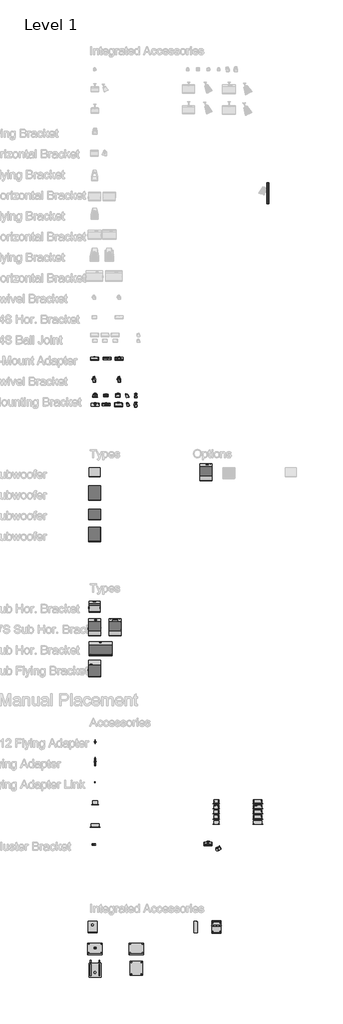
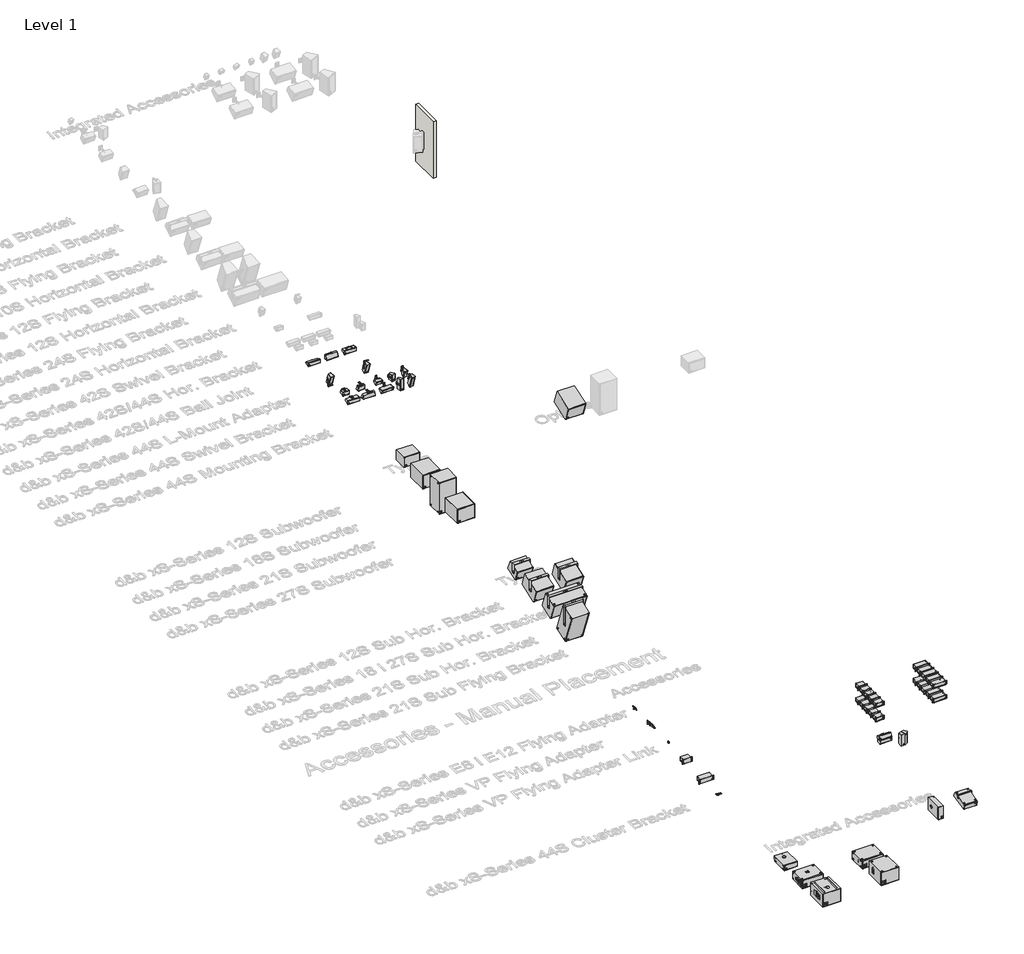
# One storey, part 1 of 55: 109 proxies, 1 wall.
"""IFC4 building model written with IfcOpenShell, lengths in millimetres."""

from ifc_helpers import new_model, si_unit, origin, origin_with_axes, place, context, project, spatial, polyline, outline, extrude, transform, mapped, element, save
from components import communication_devices_97c60789, communication_devices_6301cf38, communication_devices_dab139d3, communication_devices_675c7f0f, communication_devices_358104d0, communication_devices_844caf4c, communication_devices_e7496f29, communication_devices_e3182ff1, communication_devices_1f6d09f7, communication_devices_82e6f1c7, communication_devices_69af7706, communication_devices_fe93b70c, communication_devices_34a5a653, proxy_12s_sub_2a9edee9, proxy_12s_sub_cb7f461c, proxy_12s_sub_horizontal_bracket_de33758e, proxy_18s_sub_8416c1b3, proxy_18s_sub_96205f55, proxy_21s_sub_79dd9c0d, proxy_21s_sub_c40fc60f, proxy_21s_sub_991d3e1e, proxy_21s_sub_horizontal_bracket_4cf1d9cc, proxy_27s_sub_921b6ecd, proxy_27s_sub_db3ca03a, proxy_42s_c8104672, proxy_42s_521dafe3, proxy_42s_42be1cfc, proxy_42s_1332fbba, proxy_42s_98b05bd8, proxy_42s_fb7fbbbd, proxy_42s_a78421c8, proxy_42s_6af7a05f, proxy_42s_3eda13a3, proxy_42s_642b6e83, proxy_42s_229a12bf, proxy_42s_c75082dc, proxy_42s_0d4dba5b, proxy_42s_63104fb8, proxy_42s_c03f11e0, proxy_42s_backbox_1e2a87f7, proxy_42s_backbox_grill_2f24f7a1, proxy_44s_32ae6d55, proxy_44s_7d33e236, proxy_44s_3f6da697, proxy_44s_02d7a7ab, proxy_44s_ea728750, proxy_44s_1c6b800a, proxy_44s_2f7ddd4e, proxy_44s_0980b8fd, proxy_44s_f901832d, proxy_44s_8ae005f7, proxy_44s_0b05587c, proxy_44s_84449b67, proxy_44s_9d6f9ee8, proxy_44s_00a346c1, proxy_44s_be1570ec, proxy_44s_ca5eadcc, proxy_44s_4462d177, proxy_44s_975088ee, proxy_44s_0ea58366, proxy_44s_f6e05639, proxy_44s_21f7933f, proxy_44s_backbox_d0b5ccca, proxy_44s_backbox_grill_4ff85e1d, proxy_44s_swivel_bracket_5362e897, proxy_44s_swivel_bracket_d8dc4f12, b10_sub_546336d0, b10_sub_703a699e, b12_sub_ed2cee65, b12_sub_e7cbb8c9, b12_sub_46f5f9e7, b8_horizontal_bracket_c61ec636, bi10_sub_41919346, bi12_sub_8aa10a98, bi8_sub_5164e3e7, bi8_sub_f5dac4f3, bi8_sub_5dedd92b

model = new_model("IFC4")

# Units and contexts
model_context = context("Model", 3, world=origin())
ifc_project = project(units=[si_unit("LENGTHUNIT", "METRE", prefix="MILLI")], contexts=[model_context])

# Site, building, storey
site = spatial("IfcSite", under=ifc_project)
building = spatial("IfcBuilding", under=site)
storey = spatial("IfcBuildingStorey", under=building, Name="Level 1", Elevation=0.0)

# Proxies
placement = place(None, origin())
communication_devices_shape = communication_devices_97c60789(model_context)
element("IfcBuildingElementProxy", 1, Name="d&b E8 l E12 Flying Adapter : E8 l E12 Flying Adapter", ObjectType="d&b E8 l E12 Flying Adapter : E8 l E12 Flying Adapter", at=placement, inside=storey, context=model_context, shape_type="MappedRepresentation", body=[
    mapped(communication_devices_shape, transform((-11234.6063199, -26914.0150222, 0.0), x_axis=(1.0, 0.0, 0.0), y_axis=(0.0, 1.0, 0.0), z_axis=(0.0, 0.0, 1.0))),
])
communication_devices_2_shape = communication_devices_6301cf38(model_context)
element("IfcBuildingElementProxy", 2, Name="d&b xS-Series 21S Sub Flying Bracket : 21S Sub Flying Bracket", ObjectType="d&b xS-Series 21S Sub Flying Bracket : 21S Sub Flying Bracket", at=placement, inside=storey, context=model_context, shape_type="MappedRepresentation", body=[
    mapped(communication_devices_2_shape, transform((-11261.6434304, -23353.4987699, 1000.0), x_axis=(1.0, 0.0, 0.0), y_axis=(0.0, 1.0, 0.0), z_axis=(0.0, 0.0, 1.0))),
])
communication_devices_3_shape = communication_devices_dab139d3(model_context)
element("IfcBuildingElementProxy", 3, Name="d&b VP Flying Adapter : VP Flying Adapter", ObjectType="d&b VP Flying Adapter : VP Flying Adapter", at=placement, inside=storey, context=model_context, shape_type="MappedRepresentation", body=[
    mapped(communication_devices_3_shape, transform((-11234.6063199, -27853.4987699, 0.0), x_axis=(1.0, 0.0, 0.0), y_axis=(0.0, 1.0, 0.0), z_axis=(0.0, 0.0, 1.0))),
])
communication_devices_4_shape = communication_devices_675c7f0f(model_context)
element("IfcBuildingElementProxy", 4, Name="d&b VP Flying Adapter Link : VP Flying Adapter Link", ObjectType="d&b VP Flying Adapter Link : VP Flying Adapter Link", at=placement, inside=storey, context=model_context, shape_type="MappedRepresentation", body=[
    mapped(communication_devices_4_shape, transform((-11234.6063199, -28853.4987699, 0.0), x_axis=(1.0, 0.0, 0.0), y_axis=(0.0, 1.0, 0.0), z_axis=(0.0, 0.0, 1.0))),
])
communication_devices_5_shape = communication_devices_358104d0(model_context)
element("IfcBuildingElementProxy", 5, Name="d&b xS-Series 18 l 27S Sub Horizontal Bracket : 18S l 27S Sub Horizontal Bracket", ObjectType="d&b xS-Series 18 l 27S Sub Horizontal Bracket : 18S l 27S Sub Horizontal Bracket", at=placement, inside=storey, context=model_context, shape_type="MappedRepresentation", body=[
    mapped(communication_devices_5_shape, transform((-11261.6434304, -21353.4987699, 1000.0), x_axis=(1.0, 0.0, 0.0), y_axis=(0.0, 1.0, 0.0), z_axis=(0.0, 0.0, 1.0))),
])
communication_devices_6_shape = communication_devices_844caf4c(model_context)
element("IfcBuildingElementProxy", 6, Name="d&b xS-Series 18 l 27S Sub Horizontal Bracket : 18S l 27S Sub Horizontal Bracket", ObjectType="d&b xS-Series 18 l 27S Sub Horizontal Bracket : 18S l 27S Sub Horizontal Bracket", at=placement, inside=storey, context=model_context, shape_type="MappedRepresentation", body=[
    mapped(communication_devices_6_shape, transform((-10261.6434304, -21353.4987699, 1000.0), x_axis=(1.0, 0.0, 0.0), y_axis=(0.0, 1.0, 0.0), z_axis=(0.0, 0.0, 1.0))),
])
communication_devices_7_shape = communication_devices_e7496f29(model_context)
element("IfcBuildingElementProxy", 7, Name="d&b xS-Series 44S Cluster Bracket : 44S Cluster Bracket", ObjectType="d&b xS-Series 44S Cluster Bracket : 44S Cluster Bracket", at=placement, inside=storey, context=model_context, shape_type="MappedRepresentation", body=[
    mapped(communication_devices_7_shape, transform((-11234.6063199, -31853.4987699, 0.0), x_axis=(1.0, 0.0, 0.0), y_axis=(0.0, 1.0, 0.0), z_axis=(0.0, 0.0, 1.0))),
])
element("IfcBuildingElementProxy", 8, Name="d&b xS-Series 44S Cluster Bracket : 44S Cluster Bracket", ObjectType="d&b xS-Series 44S Cluster Bracket : 44S Cluster Bracket", at=placement, inside=storey, context=model_context, shape_type="MappedRepresentation", body=[
    mapped(communication_devices_7_shape, transform((-5754.4666248, -31784.3958596, -24.6152908), x_axis=(0.0, -0.17364817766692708, -0.9848077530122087), y_axis=(-1.0, 0.0, 0.0), z_axis=(0.0, 0.9848077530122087, -0.17364817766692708))),
])
element("IfcBuildingElementProxy", 9, Name="d&b xS-Series 44S Cluster Bracket : 44S Cluster Bracket", ObjectType="d&b xS-Series 44S Cluster Bracket : 44S Cluster Bracket", at=placement, inside=storey, context=model_context, shape_type="MappedRepresentation", body=[
    mapped(communication_devices_7_shape, transform((-5232.0771322, -31982.1792369, 0.0), x_axis=(0.9396926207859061, 0.34202014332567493, 0.0), y_axis=(0.0, 0.0, -1.0), z_axis=(-0.34202014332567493, 0.9396926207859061, 0.0))),
])
communication_devices_8_shape = communication_devices_e3182ff1(model_context)
element("IfcBuildingElementProxy", 10, Name="d&b xS-Series 44S L-Mount Adapter : 44S L-Mount Adapter", ObjectType="d&b xS-Series 44S L-Mount Adapter : 44S L-Mount Adapter", at=placement, inside=storey, context=model_context, shape_type="MappedRepresentation", body=[
    mapped(communication_devices_8_shape, transform((-11261.6434304, -8311.3404464, 936.0), x_axis=(-1.0, 0.0, 0.0), y_axis=(0.0, 1.0, 0.0), z_axis=(0.0, 0.0, -1.0))),
])
element("IfcBuildingElementProxy", 11, Name="d&b xS-Series 44S L-Mount Adapter : 44S L-Mount Adapter", ObjectType="d&b xS-Series 44S L-Mount Adapter : 44S L-Mount Adapter", at=placement, inside=storey, context=model_context, shape_type="MappedRepresentation", body=[
    mapped(communication_devices_8_shape, transform((-10061.6434304, -8311.3404464, 1064.0), x_axis=(1.0, 0.0, 0.0), y_axis=(0.0, 1.0, 0.0), z_axis=(0.0, 0.0, 1.0))),
])
element("IfcBuildingElementProxy", 12, Name="d&b xS-Series 44S L-Mount Adapter : 44S L-Mount Adapter", ObjectType="d&b xS-Series 44S L-Mount Adapter : 44S L-Mount Adapter", at=placement, inside=storey, context=model_context, shape_type="MappedRepresentation", body=[
    mapped(communication_devices_8_shape, transform((-10641.6434304, -8289.4987699, 1042.1583235), x_axis=(-1.0000000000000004, 0.0, 0.0), y_axis=(0.0, 0.0, 1.0), z_axis=(0.0, 1.0000000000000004, 0.0))),
])
communication_devices_9_shape = communication_devices_1f6d09f7(model_context)
element("IfcBuildingElementProxy", 13, Name="d&b xS-Series 42S l 44S Mounting Bracket : 42S l 44S Mounting Bracket", ObjectType="d&b xS-Series 42S l 44S Mounting Bracket : 42S l 44S Mounting Bracket", at=placement, inside=storey, context=model_context, shape_type="MappedRepresentation", body=[
    mapped(communication_devices_9_shape, transform((-10121.6434304, -10070.7317343, 1000.8173778), x_axis=(-1.0, 0.0, 0.0), y_axis=(0.0, -0.17364817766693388, 0.9848077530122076), z_axis=(0.0, 0.9848077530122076, 0.17364817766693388))),
])
element("IfcBuildingElementProxy", 14, Name="d&b xS-Series 42S l 44S Mounting Bracket : 42S l 44S Mounting Bracket", ObjectType="d&b xS-Series 42S l 44S Mounting Bracket : 42S l 44S Mounting Bracket", at=placement, inside=storey, context=model_context, shape_type="MappedRepresentation", body=[
    mapped(communication_devices_9_shape, transform((-9258.0410687, -10086.652246, 1040.778873), x_axis=(-0.9995410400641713, -0.002909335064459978, 0.03015368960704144), y_axis=(0.030206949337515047, -0.1710006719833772, 0.9848077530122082), z_axis=(0.002291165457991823, 0.985266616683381, 0.171010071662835))),
])
element("IfcBuildingElementProxy", 15, Name="d&b xS-Series 42S l 44S Mounting Bracket : 42S l 44S Mounting Bracket", ObjectType="d&b xS-Series 42S l 44S Mounting Bracket : 42S l 44S Mounting Bracket", at=placement, inside=storey, context=model_context, shape_type="MappedRepresentation", body=[
    mapped(communication_devices_9_shape, transform((-10101.6434304, -10509.2369172, 1001.3605779), x_axis=(-1.0, 0.0, 0.0), y_axis=(0.0, -0.17364817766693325, 0.9848077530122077), z_axis=(0.0, 0.9848077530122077, 0.17364817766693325))),
])
communication_devices_10_shape = communication_devices_82e6f1c7(model_context)
element("IfcBuildingElementProxy", 16, Name="d&b xS-Series 42S l 44S Mounting Bracket : 42S l 44S Mounting Bracket", ObjectType="d&b xS-Series 42S l 44S Mounting Bracket : 42S l 44S Mounting Bracket", at=placement, inside=storey, context=model_context, shape_type="MappedRepresentation", body=[
    mapped(communication_devices_10_shape, transform((-11231.6434304, -10513.2169842, 1023.9326593), x_axis=(1.0, 0.0, 0.0), y_axis=(0.0, 0.17364817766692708, -0.9848077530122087), z_axis=(0.0, 0.9848077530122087, 0.17364817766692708))),
])
element("IfcBuildingElementProxy", 17, Name="d&b xS-Series 42S l 44S Mounting Bracket : 42S l 44S Mounting Bracket", ObjectType="d&b xS-Series 42S l 44S Mounting Bracket : 42S l 44S Mounting Bracket", at=placement, inside=storey, context=model_context, shape_type="MappedRepresentation", body=[
    mapped(communication_devices_10_shape, transform((-11231.6434304, -10074.8405638, 1024.1197081), x_axis=(1.0, 0.0, 0.0), y_axis=(0.0, 0.17364817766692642, -0.9848077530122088), z_axis=(0.0, 0.9848077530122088, 0.17364817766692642))),
])
communication_devices_11_shape = communication_devices_69af7706(model_context)
element("IfcBuildingElementProxy", 18, Name="d&b xS-Series 42S l 44S Mounting Bracket : 42S l 44S Mounting Bracket", ObjectType="d&b xS-Series 42S l 44S Mounting Bracket : 42S l 44S Mounting Bracket", at=placement, inside=storey, context=model_context, shape_type="MappedRepresentation", body=[
    mapped(communication_devices_11_shape, transform((-10707.6247756, -10606.3729203, 1069.2232767), x_axis=(1.0, 0.0, 0.0), y_axis=(0.0, 0.984807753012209, 0.17364817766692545), z_axis=(0.0, -0.17364817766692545, 0.984807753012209))),
])
element("IfcBuildingElementProxy", 19, Name="d&b xS-Series 42S l 44S Mounting Bracket : 42S l 44S Mounting Bracket", ObjectType="d&b xS-Series 42S l 44S Mounting Bracket : 42S l 44S Mounting Bracket", at=placement, inside=storey, context=model_context, shape_type="MappedRepresentation", body=[
    mapped(communication_devices_11_shape, transform((-10707.6247756, -10167.618478, 1068.6582061), x_axis=(1.0, 0.0, 0.0), y_axis=(0.0, 0.9848077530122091, 0.17364817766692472), z_axis=(0.0, -0.17364817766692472, 0.9848077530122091))),
])
communication_devices_12_shape = communication_devices_fe93b70c(model_context)
element("IfcBuildingElementProxy", 20, Name="d&b xS-Series 42S l 44S Mounting Bracket : 42S l 44S Mounting Bracket", ObjectType="d&b xS-Series 42S l 44S Mounting Bracket : 42S l 44S Mounting Bracket", at=placement, inside=storey, context=model_context, shape_type="MappedRepresentation", body=[
    mapped(communication_devices_12_shape, transform((-9659.964498, -10512.7704711, 1000.5286813), x_axis=(0.0, 0.0, -1.0), y_axis=(-0.9395860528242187, -0.3423127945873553, 0.0), z_axis=(-0.3423127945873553, 0.9395860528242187, 0.0))),
])
element("IfcBuildingElementProxy", 21, Name="d&b xS-Series 42S l 44S Mounting Bracket : 42S l 44S Mounting Bracket", ObjectType="d&b xS-Series 42S l 44S Mounting Bracket : 42S l 44S Mounting Bracket", at=placement, inside=storey, context=model_context, shape_type="MappedRepresentation", body=[
    mapped(communication_devices_10_shape, transform((-9701.9086544, -10090.3500082, 1007.6806883), x_axis=(0.0, 0.0, 1.0), y_axis=(0.9395860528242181, 0.3423127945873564, 0.0), z_axis=(-0.3423127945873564, 0.9395860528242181, 0.0))),
])
communication_devices_13_shape = communication_devices_34a5a653(model_context)
element("IfcBuildingElementProxy", 22, Name="d&b xS-Series 42S l 44S Mounting Bracket : 42S l 44S Mounting Bracket", ObjectType="d&b xS-Series 42S l 44S Mounting Bracket : 42S l 44S Mounting Bracket", at=placement, inside=storey, context=model_context, shape_type="MappedRepresentation", body=[
    mapped(communication_devices_13_shape, transform((-9263.0218781, -10506.8081611, 1017.9387159), x_axis=(-0.9989706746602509, -0.006138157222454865, 0.04494345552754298), y_axis=(0.04502283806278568, -0.25487299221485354, 0.9659258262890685), z_axis=(0.005525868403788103, 0.9669550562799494, 0.25488700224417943))),
])
element("IfcBuildingElementProxy", 23, Name="d&b xS-Series 42S l 44S Mounting Bracket : 42S l 44S Mounting Bracket", ObjectType="d&b xS-Series 42S l 44S Mounting Bracket : 42S l 44S Mounting Bracket", at=placement, inside=storey, context=model_context, shape_type="MappedRepresentation", body=[
    mapped(communication_devices_10_shape, transform((-5234.3426962, -31979.8113014, 0.0), x_axis=(0.0, 0.0, -1.0), y_axis=(-0.9396926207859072, -0.3420201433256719, 0.0), z_axis=(-0.3420201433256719, 0.9396926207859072, 0.0))),
])
element("IfcBuildingElementProxy", 24, Name="d&b xS-Series 42S l 44S Mounting Bracket : 42S l 44S Mounting Bracket", ObjectType="d&b xS-Series 42S l 44S Mounting Bracket : 42S l 44S Mounting Bracket", at=placement, inside=storey, context=model_context, shape_type="MappedRepresentation", body=[
    mapped(communication_devices_10_shape, transform((-5753.849774, -31753.2096812, 79.220637), x_axis=(1.0, 0.0, 0.0), y_axis=(0.0, -0.3420201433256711, -0.9396926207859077), z_axis=(0.0, 0.9396926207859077, -0.3420201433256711))),
])
proxy_12s_sub_shape = proxy_12s_sub_2a9edee9(model_context)
element("IfcBuildingElementProxy", 25, Name="d&b xS-Series 12S Subwoofer : 12S Sub", ObjectType="d&b xS-Series 12S Subwoofer : 12S Sub", at=placement, inside=storey, context=model_context, shape_type="MappedRepresentation", body=[
    mapped(proxy_12s_sub_shape, transform((-11261.6434304, -13853.4987699, 1000.0), x_axis=(1.0, 0.0, 0.0), y_axis=(0.0, 1.0, 0.0), z_axis=(0.0, 0.0, 1.0))),
])
proxy_12s_sub_2_shape = proxy_12s_sub_cb7f461c(model_context)
element("IfcBuildingElementProxy", 26, Name="d&b xS-Series 12S Subwoofer : 12S Sub", ObjectType="d&b xS-Series 12S Subwoofer : 12S Sub", at=placement, inside=storey, context=model_context, shape_type="MappedRepresentation", body=[
    mapped(proxy_12s_sub_2_shape, transform((-11261.6434304, -20353.4987699, 1000.0), x_axis=(1.0, 0.0, 0.0), y_axis=(0.0, 1.0, 0.0), z_axis=(0.0, 0.0, 1.0))),
])
proxy_12s_sub_horizontal_bracket_shape = proxy_12s_sub_horizontal_bracket_de33758e(model_context)
element("IfcBuildingElementProxy", 27, Name="d&b xS-Series 12S Sub Horizontal Bracket : 12S Sub Horizontal Bracket", ObjectType="d&b xS-Series 12S Sub Horizontal Bracket : 12S Sub Horizontal Bracket", at=placement, inside=storey, context=model_context, shape_type="MappedRepresentation", body=[
    mapped(proxy_12s_sub_horizontal_bracket_shape, transform((-11261.6434304, -20353.5070077, 1000.0), x_axis=(1.0, 0.0, 0.0), y_axis=(0.0, 1.0, 0.0), z_axis=(0.0, 0.0, 1.0))),
])
proxy_18s_sub_shape = proxy_18s_sub_8416c1b3(model_context)
element("IfcBuildingElementProxy", 28, Name="d&b xS-Series 18S Subwoofer : 18S Sub", ObjectType="d&b xS-Series 18S Subwoofer : 18S Sub", at=placement, inside=storey, context=model_context, shape_type="MappedRepresentation", body=[
    mapped(proxy_18s_sub_shape, transform((-11261.6434304, -14853.4987699, 1000.0), x_axis=(1.0, 0.0, 0.0), y_axis=(0.0, 1.0, 0.0), z_axis=(0.0, 0.0, 1.0))),
])
proxy_18s_sub_2_shape = proxy_18s_sub_96205f55(model_context)
element("IfcBuildingElementProxy", 29, Name="d&b xS-Series 18S Subwoofer : 18S Sub", ObjectType="d&b xS-Series 18S Subwoofer : 18S Sub", at=placement, inside=storey, context=model_context, shape_type="MappedRepresentation", body=[
    mapped(proxy_18s_sub_2_shape, transform((-11261.6434304, -21353.4987699, 1000.0), x_axis=(1.0, 0.0, 0.0), y_axis=(0.0, 1.0, 0.0), z_axis=(0.0, 0.0, 1.0))),
])
element("IfcBuildingElementProxy", 30, Name="d&b xS-Series 18S Subwoofer : 18S Sub", ObjectType="d&b xS-Series 18S Subwoofer : 18S Sub", at=placement, inside=storey, context=model_context, shape_type="MappedRepresentation", body=[
    mapped(proxy_18s_sub_2_shape, transform((-5861.6434304, -13853.4987699, 1000.0), x_axis=(1.0, 0.0, 0.0), y_axis=(0.0, 1.0, 0.0), z_axis=(0.0, 0.0, 1.0))),
])
proxy_21s_sub_shape = proxy_21s_sub_79dd9c0d(model_context)
element("IfcBuildingElementProxy", 31, Name="d&b xS-Series 21S Subwoofer : 21S Sub", ObjectType="d&b xS-Series 21S Subwoofer : 21S Sub", at=placement, inside=storey, context=model_context, shape_type="MappedRepresentation", body=[
    mapped(proxy_21s_sub_shape, transform((-11261.6434304, -15853.4987699, 1000.0), x_axis=(1.0, 0.0, 0.0), y_axis=(0.0, 1.0, 0.0), z_axis=(0.0, 0.0, 1.0))),
])
proxy_21s_sub_2_shape = proxy_21s_sub_c40fc60f(model_context)
element("IfcBuildingElementProxy", 32, Name="d&b xS-Series 21S Subwoofer : 21S Sub", ObjectType="d&b xS-Series 21S Subwoofer : 21S Sub", at=placement, inside=storey, context=model_context, shape_type="MappedRepresentation", body=[
    mapped(proxy_21s_sub_2_shape, transform((-10968.1434304, -22353.4987699, 1000.0), x_axis=(1.0, 0.0, 0.0), y_axis=(0.0, 1.0, 0.0), z_axis=(0.0, 0.0, 1.0))),
])
proxy_21s_sub_3_shape = proxy_21s_sub_991d3e1e(model_context)
element("IfcBuildingElementProxy", 33, Name="d&b xS-Series 21S Subwoofer : 21S Sub", ObjectType="d&b xS-Series 21S Subwoofer : 21S Sub", at=placement, inside=storey, context=model_context, shape_type="MappedRepresentation", body=[
    mapped(proxy_21s_sub_3_shape, transform((-11261.6434304, -23353.4987699, 1000.0), x_axis=(1.0, 0.0, 0.0), y_axis=(0.0, 1.0, 0.0), z_axis=(0.0, 0.0, 1.0))),
])
proxy_21s_sub_horizontal_bracket_shape = proxy_21s_sub_horizontal_bracket_4cf1d9cc(model_context)
element("IfcBuildingElementProxy", 34, Name="d&b xS-Series 21S Sub Horizontal Bracket : 21S Sub Horizontal Bracket", ObjectType="d&b xS-Series 21S Sub Horizontal Bracket : 21S Sub Horizontal Bracket", at=placement, inside=storey, context=model_context, shape_type="MappedRepresentation", body=[
    mapped(proxy_21s_sub_horizontal_bracket_shape, transform((-10968.1434304, -22353.4987699, 1000.0), x_axis=(1.0, 0.0, 0.0), y_axis=(0.0, 1.0, 0.0), z_axis=(0.0, 0.0, 1.0))),
])
proxy_27s_sub_shape = proxy_27s_sub_921b6ecd(model_context)
element("IfcBuildingElementProxy", 35, Name="d&b xS-Series 27S Subwoofer : 27S Sub", ObjectType="d&b xS-Series 27S Subwoofer : 27S Sub", at=placement, inside=storey, context=model_context, shape_type="MappedRepresentation", body=[
    mapped(proxy_27s_sub_shape, transform((-11261.6434304, -16853.4987699, 1000.0), x_axis=(1.0, 0.0, 0.0), y_axis=(0.0, 1.0, 0.0), z_axis=(0.0, 0.0, 1.0))),
])
proxy_27s_sub_2_shape = proxy_27s_sub_db3ca03a(model_context)
element("IfcBuildingElementProxy", 36, Name="d&b xS-Series 27S Subwoofer : 27S Sub", ObjectType="d&b xS-Series 27S Subwoofer : 27S Sub", at=placement, inside=storey, context=model_context, shape_type="MappedRepresentation", body=[
    mapped(proxy_27s_sub_2_shape, transform((-10261.6434304, -21353.4987699, 1000.0), x_axis=(1.0, 0.0, 0.0), y_axis=(0.0, 1.0, 0.0), z_axis=(0.0, 0.0, 1.0))),
])
proxy_42s_shape = proxy_42s_c8104672(model_context)
element("IfcBuildingElementProxy", 37, Name="d&b xS-Series 42S Point Source : 42S", ObjectType="d&b xS-Series 42S Point Source : 42S", at=placement, inside=storey, context=model_context, shape_type="MappedRepresentation", body=[
    mapped(proxy_42s_shape, transform((-5354.4666248, -30041.9343197, -19.3614022), x_axis=(1.0, 0.0, 0.0), y_axis=(0.0, 1.0, 0.0), z_axis=(0.0, 0.0, 1.0))),
])
proxy_42s_2_shape = proxy_42s_521dafe3(model_context)
element("IfcBuildingElementProxy", 38, Name="d&b xS-Series 42S Point Source : 42S", ObjectType="d&b xS-Series 42S Point Source : 42S", at=placement, inside=storey, context=model_context, shape_type="MappedRepresentation", body=[
    mapped(proxy_42s_2_shape, transform((-5354.4666248, -30295.3867728, -12.5644217), x_axis=(1.0, 0.0, 0.0), y_axis=(0.0, 1.0, 0.0), z_axis=(0.0, 0.0, 1.0))),
])
proxy_42s_3_shape = proxy_42s_42be1cfc(model_context)
element("IfcBuildingElementProxy", 39, Name="d&b xS-Series 42S Point Source : 42S", ObjectType="d&b xS-Series 42S Point Source : 42S", at=placement, inside=storey, context=model_context, shape_type="MappedRepresentation", body=[
    mapped(proxy_42s_3_shape, transform((-5354.4666248, -30549.4184841, -6.0942069), x_axis=(1.0, 0.0, 0.0), y_axis=(0.0, 1.0, 0.0), z_axis=(0.0, 0.0, 1.0))),
])
proxy_42s_4_shape = proxy_42s_1332fbba(model_context)
element("IfcBuildingElementProxy", 40, Name="d&b xS-Series 42S Point Source : 42S", ObjectType="d&b xS-Series 42S Point Source : 42S", at=placement, inside=storey, context=model_context, shape_type="MappedRepresentation", body=[
    mapped(proxy_42s_4_shape, transform((-5354.4666248, -29789.0874001, -26.4334192), x_axis=(1.0, 0.0, 0.0), y_axis=(0.0, 1.0, 0.0), z_axis=(0.0, 0.0, 1.0))),
])
proxy_42s_5_shape = proxy_42s_98b05bd8(model_context)
element("IfcBuildingElementProxy", 41, Name="d&b xS-Series 42S Point Source : 42S", ObjectType="d&b xS-Series 42S Point Source : 42S", at=placement, inside=storey, context=model_context, shape_type="MappedRepresentation", body=[
    mapped(proxy_42s_5_shape, transform((-5354.4666248, -30803.9987699, 0.0), x_axis=(1.0, 0.0, 0.0), y_axis=(0.0, 1.0, 0.0), z_axis=(0.0, 0.0, 1.0))),
])
proxy_42s_6_shape = proxy_42s_fb7fbbbd(model_context)
element("IfcBuildingElementProxy", 42, Name="d&b xS-Series 42S Point Source : 42S", ObjectType="d&b xS-Series 42S Point Source : 42S", at=placement, inside=storey, context=model_context, shape_type="MappedRepresentation", body=[
    mapped(proxy_42s_6_shape, transform((-10121.6434304, -10143.4987699, 1000.0), x_axis=(1.0, 0.0, 0.0), y_axis=(0.0, 1.0, 0.0), z_axis=(0.0, 0.0, 1.0))),
])
proxy_42s_7_shape = proxy_42s_a78421c8(model_context)
element("IfcBuildingElementProxy", 43, Name="d&b xS-Series 42S Point Source : 42S", ObjectType="d&b xS-Series 42S Point Source : 42S", at=placement, inside=storey, context=model_context, shape_type="MappedRepresentation", body=[
    mapped(proxy_42s_7_shape, transform((-9266.2132539, -10153.7656843, 1007.6806883), x_axis=(0.9847536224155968, 0.17395488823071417, 0.0), y_axis=(-0.17395488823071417, 0.9847536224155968, 0.0), z_axis=(0.0, 0.0, 1.0))),
])
proxy_42s_8_shape = proxy_42s_6af7a05f(model_context)
element("IfcBuildingElementProxy", 44, Name="d&b xS-Series 42S Point Source : 42S", ObjectType="d&b xS-Series 42S Point Source : 42S", at=placement, inside=storey, context=model_context, shape_type="MappedRepresentation", body=[
    mapped(proxy_42s_8_shape, transform((-9666.2132539, -10153.7656843, 1007.6806883), x_axis=(0.9847536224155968, 0.17395488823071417, 0.0), y_axis=(-0.17395488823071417, 0.9847536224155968, 0.0), z_axis=(0.0, 0.0, 1.0))),
])
proxy_42s_9_shape = proxy_42s_3eda13a3(model_context)
element("IfcBuildingElementProxy", 45, Name="d&b xS-Series 42S Point Source : 42S", ObjectType="d&b xS-Series 42S Point Source : 42S", at=placement, inside=storey, context=model_context, shape_type="MappedRepresentation", body=[
    mapped(proxy_42s_9_shape, transform((-10707.6247756, -10143.4987699, 1000.0), x_axis=(1.0, 0.0, 0.0), y_axis=(0.0, 1.0, 0.0), z_axis=(0.0, 0.0, 1.0))),
])
proxy_42s_10_shape = proxy_42s_642b6e83(model_context)
element("IfcBuildingElementProxy", 46, Name="d&b xS-Series 42S Point Source : 42S", ObjectType="d&b xS-Series 42S Point Source : 42S", at=placement, inside=storey, context=model_context, shape_type="MappedRepresentation", body=[
    mapped(proxy_42s_10_shape, transform((-11231.6434304, -10143.4987699, 1000.0), x_axis=(1.0, 0.0, 0.0), y_axis=(0.0, 1.0, 0.0), z_axis=(0.0, 0.0, 1.0))),
])
proxy_42s_11_shape = proxy_42s_229a12bf(model_context)
element("IfcBuildingElementProxy", 47, Name="d&b xS-Series 42S Point Source : 42S", ObjectType="d&b xS-Series 42S Point Source : 42S", at=placement, inside=storey, context=model_context, shape_type="MappedRepresentation", body=[
    mapped(proxy_42s_11_shape, transform((-5354.4666248, -30041.9343197, 519.3614022), x_axis=(1.0, 0.0, 0.0), y_axis=(0.0, 1.0, 0.0), z_axis=(0.0, 0.0, 1.0))),
])
proxy_42s_12_shape = proxy_42s_c75082dc(model_context)
element("IfcBuildingElementProxy", 48, Name="d&b xS-Series 42S Point Source : 42S", ObjectType="d&b xS-Series 42S Point Source : 42S", at=placement, inside=storey, context=model_context, shape_type="MappedRepresentation", body=[
    mapped(proxy_42s_12_shape, transform((-5354.4666248, -29789.0874001, 526.4334192), x_axis=(1.0, 0.0, 0.0), y_axis=(0.0, 1.0, 0.0), z_axis=(0.0, 0.0, 1.0))),
])
proxy_42s_13_shape = proxy_42s_0d4dba5b(model_context)
element("IfcBuildingElementProxy", 49, Name="d&b xS-Series 42S Point Source : 42S", ObjectType="d&b xS-Series 42S Point Source : 42S", at=placement, inside=storey, context=model_context, shape_type="MappedRepresentation", body=[
    mapped(proxy_42s_13_shape, transform((-5354.4666248, -30549.4184841, 506.0942069), x_axis=(1.0, 0.0, 0.0), y_axis=(0.0, 1.0, 0.0), z_axis=(0.0, 0.0, 1.0))),
])
proxy_42s_14_shape = proxy_42s_63104fb8(model_context)
element("IfcBuildingElementProxy", 50, Name="d&b xS-Series 42S Point Source : 42S", ObjectType="d&b xS-Series 42S Point Source : 42S", at=placement, inside=storey, context=model_context, shape_type="MappedRepresentation", body=[
    mapped(proxy_42s_14_shape, transform((-5354.4666248, -30295.3867728, 512.5644217), x_axis=(1.0, 0.0, 0.0), y_axis=(0.0, 1.0, 0.0), z_axis=(0.0, 0.0, 1.0))),
])
proxy_42s_15_shape = proxy_42s_c03f11e0(model_context)
element("IfcBuildingElementProxy", 51, Name="d&b xS-Series 42S Point Source : 42S", ObjectType="d&b xS-Series 42S Point Source : 42S", at=placement, inside=storey, context=model_context, shape_type="MappedRepresentation", body=[
    mapped(proxy_42s_15_shape, transform((-5354.4666248, -30803.9987699, 500.0), x_axis=(1.0, 0.0, 0.0), y_axis=(0.0, 1.0, 0.0), z_axis=(0.0, 0.0, 1.0))),
])
proxy_42s_backbox_shape = proxy_42s_backbox_1e2a87f7(model_context)
element("IfcBuildingElementProxy", 52, Name="d&b xS-Series 42S Backbox : 42S Backbox", ObjectType="d&b xS-Series 42S Backbox : 42S Backbox", at=placement, inside=storey, context=model_context, shape_type="MappedRepresentation", body=[
    mapped(proxy_42s_backbox_shape, transform((-11234.6063199, -29840.9987699, 0.0), x_axis=(1.0, 0.0, 0.0), y_axis=(0.0, 1.0, 0.0), z_axis=(0.0, 0.0, 1.0))),
])
element("IfcBuildingElementProxy", 53, Name="d&b xS-Series 42S Backbox : 42S Backbox", ObjectType="d&b xS-Series 42S Backbox : 42S Backbox", at=placement, inside=storey, context=model_context, shape_type="MappedRepresentation", body=[
    mapped(proxy_42s_backbox_shape, transform((-5354.4666248, -30040.9987699, 0.0), x_axis=(1.0, 0.0, 0.0), y_axis=(0.0, 1.0, 0.0), z_axis=(0.0, 0.0, 1.0))),
])
element("IfcBuildingElementProxy", 54, Name="d&b xS-Series 42S Backbox : 42S Backbox", ObjectType="d&b xS-Series 42S Backbox : 42S Backbox", at=placement, inside=storey, context=model_context, shape_type="MappedRepresentation", body=[
    mapped(proxy_42s_backbox_shape, transform((-5354.4666248, -30290.9987699, 0.0), x_axis=(1.0, 0.0, 0.0), y_axis=(0.0, 1.0, 0.0), z_axis=(0.0, 0.0, 1.0))),
])
element("IfcBuildingElementProxy", 55, Name="d&b xS-Series 42S Backbox : 42S Backbox", ObjectType="d&b xS-Series 42S Backbox : 42S Backbox", at=placement, inside=storey, context=model_context, shape_type="MappedRepresentation", body=[
    mapped(proxy_42s_backbox_shape, transform((-5354.4666248, -30540.9987699, 0.0), x_axis=(1.0, 0.0, 0.0), y_axis=(0.0, 1.0, 0.0), z_axis=(0.0, 0.0, 1.0))),
])
element("IfcBuildingElementProxy", 56, Name="d&b xS-Series 42S Backbox : 42S Backbox", ObjectType="d&b xS-Series 42S Backbox : 42S Backbox", at=placement, inside=storey, context=model_context, shape_type="MappedRepresentation", body=[
    mapped(proxy_42s_backbox_shape, transform((-5354.4666248, -29790.9987699, 0.0), x_axis=(1.0, 0.0, 0.0), y_axis=(0.0, 1.0, 0.0), z_axis=(0.0, 0.0, 1.0))),
])
element("IfcBuildingElementProxy", 57, Name="d&b xS-Series 42S Backbox : 42S Backbox", ObjectType="d&b xS-Series 42S Backbox : 42S Backbox", at=placement, inside=storey, context=model_context, shape_type="MappedRepresentation", body=[
    mapped(proxy_42s_backbox_shape, transform((-5354.4666248, -30040.9987699, 500.0), x_axis=(1.0, 0.0, 0.0), y_axis=(0.0, 1.0, 0.0), z_axis=(0.0, 0.0, 1.0))),
])
element("IfcBuildingElementProxy", 58, Name="d&b xS-Series 42S Backbox : 42S Backbox", ObjectType="d&b xS-Series 42S Backbox : 42S Backbox", at=placement, inside=storey, context=model_context, shape_type="MappedRepresentation", body=[
    mapped(proxy_42s_backbox_shape, transform((-5354.4666248, -30290.9987699, 500.0), x_axis=(1.0, 0.0, 0.0), y_axis=(0.0, 1.0, 0.0), z_axis=(0.0, 0.0, 1.0))),
])
element("IfcBuildingElementProxy", 59, Name="d&b xS-Series 42S Backbox : 42S Backbox", ObjectType="d&b xS-Series 42S Backbox : 42S Backbox", at=placement, inside=storey, context=model_context, shape_type="MappedRepresentation", body=[
    mapped(proxy_42s_backbox_shape, transform((-5354.4666248, -30540.9987699, 500.0), x_axis=(1.0, 0.0, 0.0), y_axis=(0.0, 1.0, 0.0), z_axis=(0.0, 0.0, 1.0))),
])
element("IfcBuildingElementProxy", 60, Name="d&b xS-Series 42S Backbox : 42S Backbox", ObjectType="d&b xS-Series 42S Backbox : 42S Backbox", at=placement, inside=storey, context=model_context, shape_type="MappedRepresentation", body=[
    mapped(proxy_42s_backbox_shape, transform((-5354.4666248, -29790.9987699, 500.0), x_axis=(1.0, 0.0, 0.0), y_axis=(0.0, 1.0, 0.0), z_axis=(0.0, 0.0, 1.0))),
])
element("IfcBuildingElementProxy", 61, Name="d&b xS-Series 42S Backbox : 42S Backbox", ObjectType="d&b xS-Series 42S Backbox : 42S Backbox", at=placement, inside=storey, context=model_context, shape_type="MappedRepresentation", body=[
    mapped(proxy_42s_backbox_shape, transform((-5354.4666248, -30790.9987699, 500.0), x_axis=(1.0, 0.0, 0.0), y_axis=(0.0, 1.0, 0.0), z_axis=(0.0, 0.0, 1.0))),
])
element("IfcBuildingElementProxy", 62, Name="d&b xS-Series 42S Backbox : 42S Backbox", ObjectType="d&b xS-Series 42S Backbox : 42S Backbox", at=placement, inside=storey, context=model_context, shape_type="MappedRepresentation", body=[
    mapped(proxy_42s_backbox_shape, transform((-5354.4666248, -30790.9987699, 0.0), x_axis=(1.0, 0.0, 0.0), y_axis=(0.0, 1.0, 0.0), z_axis=(0.0, 0.0, 1.0))),
])
proxy_42s_backbox_grill_shape = proxy_42s_backbox_grill_2f24f7a1(model_context)
element("IfcBuildingElementProxy", 63, Name="d&b xS-Series 42S Backbox Grill : 42S Backbox Grill", ObjectType="d&b xS-Series 42S Backbox Grill : 42S Backbox Grill", at=placement, inside=storey, context=model_context, shape_type="MappedRepresentation", body=[
    mapped(proxy_42s_backbox_grill_shape, transform((-11234.6063199, -29840.9987699, 0.0), x_axis=(1.0, 0.0, 0.0), y_axis=(0.0, 1.0, 0.0), z_axis=(0.0, 0.0, 1.0))),
])
proxy_44s_shape = proxy_44s_32ae6d55(model_context)
element("IfcBuildingElementProxy", 64, Name="d&b xS-Series 44S Point Source : 44S", ObjectType="d&b xS-Series 44S Point Source : 44S", at=placement, inside=storey, context=model_context, shape_type="MappedRepresentation", body=[
    mapped(proxy_44s_shape, transform((-5754.4666248, -31853.4987699, 0.0), x_axis=(1.0, 0.0, 0.0), y_axis=(0.0, 1.0, 0.0), z_axis=(0.0, 0.0, 1.0))),
])
proxy_44s_2_shape = proxy_44s_7d33e236(model_context)
element("IfcBuildingElementProxy", 65, Name="d&b xS-Series 44S Point Source : 44S", ObjectType="d&b xS-Series 44S Point Source : 44S", at=placement, inside=storey, context=model_context, shape_type="MappedRepresentation", body=[
    mapped(proxy_44s_2_shape, transform((-11261.6434304, -8353.4987699, 1000.0), x_axis=(1.0, 0.0, 0.0), y_axis=(0.0, 1.0, 0.0), z_axis=(0.0, 0.0, 1.0))),
])
proxy_44s_3_shape = proxy_44s_3f6da697(model_context)
element("IfcBuildingElementProxy", 66, Name="d&b xS-Series 44S Point Source : 44S", ObjectType="d&b xS-Series 44S Point Source : 44S", at=placement, inside=storey, context=model_context, shape_type="MappedRepresentation", body=[
    mapped(proxy_44s_3_shape, transform((-10061.6434304, -8353.4987699, 1000.0), x_axis=(1.0, 0.0, 0.0), y_axis=(0.0, 1.0, 0.0), z_axis=(0.0, 0.0, 1.0))),
])
proxy_44s_4_shape = proxy_44s_02d7a7ab(model_context)
element("IfcBuildingElementProxy", 67, Name="d&b xS-Series 44S Point Source : 44S", ObjectType="d&b xS-Series 44S Point Source : 44S", at=placement, inside=storey, context=model_context, shape_type="MappedRepresentation", body=[
    mapped(proxy_44s_4_shape, transform((-10641.6434304, -8353.4987699, 1000.0), x_axis=(1.0000000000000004, 0.0, 0.0), y_axis=(0.0, 1.0000000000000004, 0.0), z_axis=(0.0, 0.0, 1.0))),
])
proxy_44s_5_shape = proxy_44s_ea728750(model_context)
element("IfcBuildingElementProxy", 68, Name="d&b xS-Series 44S Point Source : 44S", ObjectType="d&b xS-Series 44S Point Source : 44S", at=placement, inside=storey, context=model_context, shape_type="MappedRepresentation", body=[
    mapped(proxy_44s_5_shape, transform((-11261.6434304, -9353.4987699, 1000.0), x_axis=(1.0, 0.0, 0.0), y_axis=(0.0, 1.0, 0.0), z_axis=(0.0, 0.0, 1.0))),
])
element("IfcBuildingElementProxy", 69, Name="d&b xS-Series 44S Point Source : 44S", ObjectType="d&b xS-Series 44S Point Source : 44S", at=placement, inside=storey, context=model_context, shape_type="MappedRepresentation", body=[
    mapped(proxy_44s_5_shape, transform((-10061.6434304, -9353.4987699, 1000.0), x_axis=(1.0, 0.0, 0.0), y_axis=(0.0, 1.0, 0.0), z_axis=(0.0, 0.0, 1.0))),
])
element("IfcBuildingElementProxy", 70, Name="d&b xS-Series 44S Point Source : 44S", ObjectType="d&b xS-Series 44S Point Source : 44S", at=placement, inside=storey, context=model_context, shape_type="MappedRepresentation", body=[
    mapped(proxy_44s_3_shape, transform((-11231.6434304, -10582.4402609, 1000.0), x_axis=(1.0, 0.0, 0.0), y_axis=(0.0, 1.0, 0.0), z_axis=(0.0, 0.0, 1.0))),
])
proxy_44s_6_shape = proxy_44s_1c6b800a(model_context)
element("IfcBuildingElementProxy", 71, Name="d&b xS-Series 44S Point Source : 44S", ObjectType="d&b xS-Series 44S Point Source : 44S", at=placement, inside=storey, context=model_context, shape_type="MappedRepresentation", body=[
    mapped(proxy_44s_6_shape, transform((-10101.6434304, -10582.4402609, 1000.0), x_axis=(1.0, 0.0, 0.0), y_axis=(0.0, 1.0, 0.0), z_axis=(0.0, 0.0, 1.0))),
])
proxy_44s_7_shape = proxy_44s_2f7ddd4e(model_context)
element("IfcBuildingElementProxy", 72, Name="d&b xS-Series 44S Point Source : 44S", ObjectType="d&b xS-Series 44S Point Source : 44S", at=placement, inside=storey, context=model_context, shape_type="MappedRepresentation", body=[
    mapped(proxy_44s_7_shape, transform((-9624.4600448, -10576.8134117, 1000.0), x_axis=(0.9847536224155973, 0.17395488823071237, 0.0), y_axis=(-0.17395488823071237, 0.9847536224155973, 0.0), z_axis=(0.0, 0.0, 1.0))),
])
element("IfcBuildingElementProxy", 73, Name="d&b xS-Series 44S Point Source : 44S", ObjectType="d&b xS-Series 44S Point Source : 44S", at=placement, inside=storey, context=model_context, shape_type="MappedRepresentation", body=[
    mapped(proxy_44s_7_shape, transform((-5309.4666248, -32078.7302541, 0.0), x_axis=(1.0, 0.0, 0.0), y_axis=(0.0, 1.0, 0.0), z_axis=(0.0, 0.0, 1.0))),
])
proxy_44s_8_shape = proxy_44s_0980b8fd(model_context)
element("IfcBuildingElementProxy", 74, Name="d&b xS-Series 44S Point Source : 44S", ObjectType="d&b xS-Series 44S Point Source : 44S", at=placement, inside=storey, context=model_context, shape_type="MappedRepresentation", body=[
    mapped(proxy_44s_8_shape, transform((-3354.4666248, -30041.9343197, -19.3614022), x_axis=(1.0, 0.0, 0.0), y_axis=(0.0, 1.0, 0.0), z_axis=(0.0, 0.0, 1.0))),
])
proxy_44s_9_shape = proxy_44s_f901832d(model_context)
element("IfcBuildingElementProxy", 75, Name="d&b xS-Series 44S Point Source : 44S", ObjectType="d&b xS-Series 44S Point Source : 44S", at=placement, inside=storey, context=model_context, shape_type="MappedRepresentation", body=[
    mapped(proxy_44s_9_shape, transform((-3354.4666248, -30295.3867728, -12.5644217), x_axis=(1.0, 0.0, 0.0), y_axis=(0.0, 1.0, 0.0), z_axis=(0.0, 0.0, 1.0))),
])
proxy_44s_10_shape = proxy_44s_8ae005f7(model_context)
element("IfcBuildingElementProxy", 76, Name="d&b xS-Series 44S Point Source : 44S", ObjectType="d&b xS-Series 44S Point Source : 44S", at=placement, inside=storey, context=model_context, shape_type="MappedRepresentation", body=[
    mapped(proxy_44s_10_shape, transform((-3354.4666248, -30549.4184841, -6.0942069), x_axis=(1.0, 0.0, 0.0), y_axis=(0.0, 1.0, 0.0), z_axis=(0.0, 0.0, 1.0))),
])
proxy_44s_11_shape = proxy_44s_0b05587c(model_context)
element("IfcBuildingElementProxy", 77, Name="d&b xS-Series 44S Point Source : 44S", ObjectType="d&b xS-Series 44S Point Source : 44S", at=placement, inside=storey, context=model_context, shape_type="MappedRepresentation", body=[
    mapped(proxy_44s_11_shape, transform((-3354.4666248, -29789.0874001, -26.4334192), x_axis=(1.0, 0.0, 0.0), y_axis=(0.0, 1.0, 0.0), z_axis=(0.0, 0.0, 1.0))),
])
proxy_44s_12_shape = proxy_44s_84449b67(model_context)
element("IfcBuildingElementProxy", 78, Name="d&b xS-Series 44S Point Source : 44S", ObjectType="d&b xS-Series 44S Point Source : 44S", at=placement, inside=storey, context=model_context, shape_type="MappedRepresentation", body=[
    mapped(proxy_44s_12_shape, transform((-3354.4666248, -30041.9343197, 519.3614022), x_axis=(1.0, 0.0, 0.0), y_axis=(0.0, 1.0, 0.0), z_axis=(0.0, 0.0, 1.0))),
])
proxy_44s_13_shape = proxy_44s_9d6f9ee8(model_context)
element("IfcBuildingElementProxy", 79, Name="d&b xS-Series 44S Point Source : 44S", ObjectType="d&b xS-Series 44S Point Source : 44S", at=placement, inside=storey, context=model_context, shape_type="MappedRepresentation", body=[
    mapped(proxy_44s_13_shape, transform((-3354.4666248, -30295.3867728, 512.5644217), x_axis=(1.0, 0.0, 0.0), y_axis=(0.0, 1.0, 0.0), z_axis=(0.0, 0.0, 1.0))),
])
proxy_44s_14_shape = proxy_44s_00a346c1(model_context)
element("IfcBuildingElementProxy", 80, Name="d&b xS-Series 44S Point Source : 44S", ObjectType="d&b xS-Series 44S Point Source : 44S", at=placement, inside=storey, context=model_context, shape_type="MappedRepresentation", body=[
    mapped(proxy_44s_14_shape, transform((-3354.4666248, -30549.4184841, 506.0942069), x_axis=(1.0, 0.0, 0.0), y_axis=(0.0, 1.0, 0.0), z_axis=(0.0, 0.0, 1.0))),
])
proxy_44s_15_shape = proxy_44s_be1570ec(model_context)
element("IfcBuildingElementProxy", 81, Name="d&b xS-Series 44S Point Source : 44S", ObjectType="d&b xS-Series 44S Point Source : 44S", at=placement, inside=storey, context=model_context, shape_type="MappedRepresentation", body=[
    mapped(proxy_44s_15_shape, transform((-3354.4666248, -29789.0874001, 526.4334192), x_axis=(1.0, 0.0, 0.0), y_axis=(0.0, 1.0, 0.0), z_axis=(0.0, 0.0, 1.0))),
])
proxy_44s_16_shape = proxy_44s_ca5eadcc(model_context)
element("IfcBuildingElementProxy", 82, Name="d&b xS-Series 44S Point Source : 44S", ObjectType="d&b xS-Series 44S Point Source : 44S", at=placement, inside=storey, context=model_context, shape_type="MappedRepresentation", body=[
    mapped(proxy_44s_16_shape, transform((-3354.4666248, -30803.9987699, 500.0), x_axis=(1.0, 0.0, 0.0), y_axis=(0.0, 1.0, 0.0), z_axis=(0.0, 0.0, 1.0))),
])
proxy_44s_17_shape = proxy_44s_4462d177(model_context)
element("IfcBuildingElementProxy", 83, Name="d&b xS-Series 44S Point Source : 44S", ObjectType="d&b xS-Series 44S Point Source : 44S", at=placement, inside=storey, context=model_context, shape_type="MappedRepresentation", body=[
    mapped(proxy_44s_17_shape, transform((-3354.4666248, -30803.9987699, 0.0), x_axis=(1.0, 0.0, 0.0), y_axis=(0.0, 1.0, 0.0), z_axis=(0.0, 0.0, 1.0))),
])
proxy_44s_18_shape = proxy_44s_975088ee(model_context)
element("IfcBuildingElementProxy", 84, Name="d&b xS-Series 44S Point Source : 44S", ObjectType="d&b xS-Series 44S Point Source : 44S", at=placement, inside=storey, context=model_context, shape_type="MappedRepresentation", body=[
    mapped(proxy_44s_18_shape, transform((-5219.9400959, -32054.7310159, 0.0), x_axis=(0.8660254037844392, 0.4999999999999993, 0.0), y_axis=(-0.4999999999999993, 0.8660254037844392, 0.0), z_axis=(0.0, 0.0, 1.0))),
])
proxy_44s_19_shape = proxy_44s_0ea58366(model_context)
element("IfcBuildingElementProxy", 85, Name="d&b xS-Series 44S Point Source : 44S", ObjectType="d&b xS-Series 44S Point Source : 44S", at=placement, inside=storey, context=model_context, shape_type="MappedRepresentation", body=[
    mapped(proxy_44s_19_shape, transform((-5754.4666248, -31830.6127145, 89.3003751), x_axis=(1.0, 0.0, 0.0), y_axis=(0.0, 1.0, 0.0), z_axis=(0.0, 0.0, 1.0))),
])
proxy_44s_20_shape = proxy_44s_f6e05639(model_context)
element("IfcBuildingElementProxy", 86, Name="d&b xS-Series 44S Point Source : 44S", ObjectType="d&b xS-Series 44S Point Source : 44S", at=placement, inside=storey, context=model_context, shape_type="MappedRepresentation", body=[
    mapped(proxy_44s_20_shape, transform((-10707.6247756, -10582.4402609, 1000.0), x_axis=(1.0, 0.0, 0.0), y_axis=(0.0, 1.0, 0.0), z_axis=(0.0, 0.0, 1.0))),
])
proxy_44s_21_shape = proxy_44s_21f7933f(model_context)
element("IfcBuildingElementProxy", 87, Name="d&b xS-Series 44S Point Source : 44S", ObjectType="d&b xS-Series 44S Point Source : 44S", at=placement, inside=storey, context=model_context, shape_type="MappedRepresentation", body=[
    mapped(proxy_44s_21_shape, transform((-9274.4600448, -10576.8134117, 1000.0), x_axis=(0.9847536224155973, 0.17395488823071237, 0.0), y_axis=(-0.17395488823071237, 0.9847536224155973, 0.0), z_axis=(0.0, 0.0, 1.0))),
])
proxy_44s_backbox_shape = proxy_44s_backbox_d0b5ccca(model_context)
element("IfcBuildingElementProxy", 88, Name="d&b xS-Series 44S Backbox : 44S Backbox", ObjectType="d&b xS-Series 44S Backbox : 44S Backbox", at=placement, inside=storey, context=model_context, shape_type="MappedRepresentation", body=[
    mapped(proxy_44s_backbox_shape, transform((-11234.6063199, -30940.9987699, 0.0), x_axis=(1.0, 0.0, 0.0), y_axis=(0.0, 1.0, 0.0), z_axis=(0.0, 0.0, 1.0))),
])
element("IfcBuildingElementProxy", 89, Name="d&b xS-Series 44S Backbox : 44S Backbox", ObjectType="d&b xS-Series 44S Backbox : 44S Backbox", at=placement, inside=storey, context=model_context, shape_type="MappedRepresentation", body=[
    mapped(proxy_44s_backbox_shape, transform((-3354.4666248, -30040.9987699, 0.0), x_axis=(1.0, 0.0, 0.0), y_axis=(0.0, 1.0, 0.0), z_axis=(0.0, 0.0, 1.0))),
])
element("IfcBuildingElementProxy", 90, Name="d&b xS-Series 44S Backbox : 44S Backbox", ObjectType="d&b xS-Series 44S Backbox : 44S Backbox", at=placement, inside=storey, context=model_context, shape_type="MappedRepresentation", body=[
    mapped(proxy_44s_backbox_shape, transform((-3354.4666248, -30290.9987699, 0.0), x_axis=(1.0, 0.0, 0.0), y_axis=(0.0, 1.0, 0.0), z_axis=(0.0, 0.0, 1.0))),
])
element("IfcBuildingElementProxy", 91, Name="d&b xS-Series 44S Backbox : 44S Backbox", ObjectType="d&b xS-Series 44S Backbox : 44S Backbox", at=placement, inside=storey, context=model_context, shape_type="MappedRepresentation", body=[
    mapped(proxy_44s_backbox_shape, transform((-3354.4666248, -30540.9987699, 0.0), x_axis=(1.0, 0.0, 0.0), y_axis=(0.0, 1.0, 0.0), z_axis=(0.0, 0.0, 1.0))),
])
element("IfcBuildingElementProxy", 92, Name="d&b xS-Series 44S Backbox : 44S Backbox", ObjectType="d&b xS-Series 44S Backbox : 44S Backbox", at=placement, inside=storey, context=model_context, shape_type="MappedRepresentation", body=[
    mapped(proxy_44s_backbox_shape, transform((-3354.4666248, -29790.9987699, 0.0), x_axis=(1.0, 0.0, 0.0), y_axis=(0.0, 1.0, 0.0), z_axis=(0.0, 0.0, 1.0))),
])
element("IfcBuildingElementProxy", 93, Name="d&b xS-Series 44S Backbox : 44S Backbox", ObjectType="d&b xS-Series 44S Backbox : 44S Backbox", at=placement, inside=storey, context=model_context, shape_type="MappedRepresentation", body=[
    mapped(proxy_44s_backbox_shape, transform((-3354.4666248, -30040.9987699, 500.0), x_axis=(1.0, 0.0, 0.0), y_axis=(0.0, 1.0, 0.0), z_axis=(0.0, 0.0, 1.0))),
])
element("IfcBuildingElementProxy", 94, Name="d&b xS-Series 44S Backbox : 44S Backbox", ObjectType="d&b xS-Series 44S Backbox : 44S Backbox", at=placement, inside=storey, context=model_context, shape_type="MappedRepresentation", body=[
    mapped(proxy_44s_backbox_shape, transform((-3354.4666248, -30290.9987699, 500.0), x_axis=(1.0, 0.0, 0.0), y_axis=(0.0, 1.0, 0.0), z_axis=(0.0, 0.0, 1.0))),
])
element("IfcBuildingElementProxy", 95, Name="d&b xS-Series 44S Backbox : 44S Backbox", ObjectType="d&b xS-Series 44S Backbox : 44S Backbox", at=placement, inside=storey, context=model_context, shape_type="MappedRepresentation", body=[
    mapped(proxy_44s_backbox_shape, transform((-3354.4666248, -30540.9987699, 500.0), x_axis=(1.0, 0.0, 0.0), y_axis=(0.0, 1.0, 0.0), z_axis=(0.0, 0.0, 1.0))),
])
element("IfcBuildingElementProxy", 96, Name="d&b xS-Series 44S Backbox : 44S Backbox", ObjectType="d&b xS-Series 44S Backbox : 44S Backbox", at=placement, inside=storey, context=model_context, shape_type="MappedRepresentation", body=[
    mapped(proxy_44s_backbox_shape, transform((-3354.4666248, -29790.9987699, 500.0), x_axis=(1.0, 0.0, 0.0), y_axis=(0.0, 1.0, 0.0), z_axis=(0.0, 0.0, 1.0))),
])
element("IfcBuildingElementProxy", 97, Name="d&b xS-Series 44S Backbox : 44S Backbox", ObjectType="d&b xS-Series 44S Backbox : 44S Backbox", at=placement, inside=storey, context=model_context, shape_type="MappedRepresentation", body=[
    mapped(proxy_44s_backbox_shape, transform((-3354.4666248, -30790.9987699, 500.0), x_axis=(1.0, 0.0, 0.0), y_axis=(0.0, 1.0, 0.0), z_axis=(0.0, 0.0, 1.0))),
])
element("IfcBuildingElementProxy", 98, Name="d&b xS-Series 44S Backbox : 44S Backbox", ObjectType="d&b xS-Series 44S Backbox : 44S Backbox", at=placement, inside=storey, context=model_context, shape_type="MappedRepresentation", body=[
    mapped(proxy_44s_backbox_shape, transform((-3354.4666248, -30790.9987699, 0.0), x_axis=(1.0, 0.0, 0.0), y_axis=(0.0, 1.0, 0.0), z_axis=(0.0, 0.0, 1.0))),
])
proxy_44s_backbox_grill_shape = proxy_44s_backbox_grill_4ff85e1d(model_context)
element("IfcBuildingElementProxy", 99, Name="d&b xS-Series 44S Backbox Grill : 44S Backbox Grill", ObjectType="d&b xS-Series 44S Backbox Grill : 44S Backbox Grill", at=placement, inside=storey, context=model_context, shape_type="MappedRepresentation", body=[
    mapped(proxy_44s_backbox_grill_shape, transform((-11234.6063199, -30940.9987699, 0.0), x_axis=(1.0, 0.0, 0.0), y_axis=(0.0, 1.0, 0.0), z_axis=(0.0, 0.0, 1.0))),
])
proxy_44s_swivel_bracket_shape = proxy_44s_swivel_bracket_5362e897(model_context)
element("IfcBuildingElementProxy", 100, Name="d&b xS-Series 44S Swivel Bracket : 44S Swivel Bracket", ObjectType="d&b xS-Series 44S Swivel Bracket : 44S Swivel Bracket", at=placement, inside=storey, context=model_context, shape_type="MappedRepresentation", body=[
    mapped(proxy_44s_swivel_bracket_shape, transform((-11261.6434304, -9361.3112699, 1000.0), x_axis=(0.0, 1.0000000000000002, 0.0), y_axis=(-1.0000000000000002, 0.0, 0.0), z_axis=(0.0, 0.0, 1.0))),
])
proxy_44s_swivel_bracket_2_shape = proxy_44s_swivel_bracket_d8dc4f12(model_context)
element("IfcBuildingElementProxy", 101, Name="d&b xS-Series 44S Swivel Bracket : 44S Swivel Bracket", ObjectType="d&b xS-Series 44S Swivel Bracket : 44S Swivel Bracket", at=placement, inside=storey, context=model_context, shape_type="MappedRepresentation", body=[
    mapped(proxy_44s_swivel_bracket_2_shape, transform((-10061.6434304, -9361.3112699, 1000.0), x_axis=(0.0, 1.0000000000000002, 0.0), y_axis=(-1.0000000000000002, 0.0, 0.0), z_axis=(0.0, 0.0, 1.0))),
])
b10_sub_shape = b10_sub_546336d0(model_context)
b10_sub_2_shape = b10_sub_703a699e(model_context)
element("IfcBuildingElementProxy", 102, Name="d&b B10-SUB : B10-SUB", ObjectType="d&b B10-SUB : B10-SUB", at=placement, inside=storey, context=model_context, shape_type="MappedRepresentation", body=[
    mapped(b10_sub_shape, transform((-13734.4666248, -37133.6527639, 0.0), x_axis=(1.0, 0.0, 0.0), y_axis=(0.0, 1.0, 0.0), z_axis=(0.0, 0.0, 1.0))),
    mapped(b10_sub_2_shape, transform((-13734.4666248, -37133.6527639, 0.0), x_axis=(1.0, 0.0, 0.0), y_axis=(0.0, 1.0, 0.0), z_axis=(0.0, 0.0, 1.0))),
])
b12_sub_shape = b12_sub_ed2cee65(model_context)
b12_sub_2_shape = b12_sub_e7cbb8c9(model_context)
b12_sub_3_shape = b12_sub_46f5f9e7(model_context)
element("IfcBuildingElementProxy", 103, Name="d&b B12-SUB : B12-SUB", ObjectType="d&b B12-SUB : B12-SUB", at=placement, inside=storey, context=model_context, shape_type="MappedRepresentation", body=[
    mapped(b12_sub_shape, transform((-13734.4666248, -38233.6527639, 0.0), x_axis=(1.0, 0.0, 0.0), y_axis=(0.0, 1.0, 0.0), z_axis=(0.0, 0.0, 1.0))),
    mapped(b12_sub_2_shape, transform((-13734.4666248, -38233.6527639, 0.0), x_axis=(1.0, 0.0, 0.0), y_axis=(0.0, 1.0, 0.0), z_axis=(0.0, 0.0, 1.0))),
    mapped(b12_sub_3_shape, transform((-13734.4666248, -38233.6527639, 0.0), x_axis=(1.0, 0.0, 0.0), y_axis=(0.0, 1.0, 0.0), z_axis=(0.0, 0.0, 1.0))),
])
b8_horizontal_bracket_shape = b8_horizontal_bracket_c61ec636(model_context)
element("IfcBuildingElementProxy", 104, Name="d&b B8 Horizontal Bracket : B8 Horizontal Bracket", ObjectType="d&b B8 Horizontal Bracket : B8 Horizontal Bracket", at=placement, inside=storey, context=model_context, shape_type="MappedRepresentation", body=[
    mapped(b8_horizontal_bracket_shape, transform((-5354.4666248, -35853.4987699, 200.0), x_axis=(1.0, 0.0, 0.0), y_axis=(0.0, 1.0, 0.0), z_axis=(0.0, 0.0, 1.0))),
])
bi10_sub_shape = bi10_sub_41919346(model_context)
element("IfcBuildingElementProxy", 105, Name="d&b Bi10-SUB : Bi10-SUB", ObjectType="d&b Bi10-SUB : Bi10-SUB", at=placement, inside=storey, context=model_context, shape_type="MappedRepresentation", body=[
    mapped(bi10_sub_shape, transform((-11731.9666248, -37133.6527639, 0.0), x_axis=(1.0, 0.0, 0.0), y_axis=(0.0, 1.0, 0.0), z_axis=(0.0, 0.0, 1.0))),
])
bi12_sub_shape = bi12_sub_8aa10a98(model_context)
element("IfcBuildingElementProxy", 106, Name="d&b Bi12-SUB : Bi12-SUB", ObjectType="d&b Bi12-SUB : Bi12-SUB", at=placement, inside=storey, context=model_context, shape_type="MappedRepresentation", body=[
    mapped(bi12_sub_shape, transform((-11731.9666248, -38133.6527639, 0.0), x_axis=(1.0, 0.0, 0.0), y_axis=(0.0, 1.0, 0.0), z_axis=(0.0, 0.0, 1.0))),
])
bi8_sub_shape = bi8_sub_5164e3e7(model_context)
element("IfcBuildingElementProxy", 107, Name="d&b Bi8-SUB : Bi8-SUB", ObjectType="d&b Bi8-SUB : Bi8-SUB", at=placement, inside=storey, context=model_context, shape_type="MappedRepresentation", body=[
    mapped(bi8_sub_shape, transform((-11354.4666248, -35853.4987699, 82.25), x_axis=(1.0, 0.0, 0.0), y_axis=(0.0, 1.0, 0.0), z_axis=(0.0, 0.0, 1.0))),
])
bi8_sub_2_shape = bi8_sub_f5dac4f3(model_context)
element("IfcBuildingElementProxy", 108, Name="d&b Bi8-SUB : Bi8-SUB", ObjectType="d&b Bi8-SUB : Bi8-SUB", at=placement, inside=storey, context=model_context, shape_type="MappedRepresentation", body=[
    mapped(bi8_sub_2_shape, transform((-6354.4666248, -35853.4987699, 218.0), x_axis=(1.0, 0.0, 0.0), y_axis=(0.0, 1.0, 0.0), z_axis=(0.0, 0.0, 1.0))),
])
bi8_sub_3_shape = bi8_sub_5dedd92b(model_context)
element("IfcBuildingElementProxy", 109, Name="d&b Bi8-SUB : Bi8-SUB", ObjectType="d&b Bi8-SUB : Bi8-SUB", at=placement, inside=storey, context=model_context, shape_type="MappedRepresentation", body=[
    mapped(bi8_sub_3_shape, transform((-5354.4666248, -35853.4987699, 200.0), x_axis=(1.0, 0.0, 0.0), y_axis=(0.0, 1.0, 0.0), z_axis=(0.0, 0.0, 1.0))),
])

# Wall
element("IfcWall", 110, ObjectType="Interior Wall 100mm", at=placement, inside=storey, context=model_context, shape_type="SweptSolid", body=[
    extrude(outline(polyline([(-2921.2166391, -853.4987699), (-2921.2166391, 146.5012301), (-2821.2166391, 146.5012301), (-2821.2166391, -853.4987699), (-2921.2166391, -853.4987699)])), origin_with_axes(), (0.0, 0.0, 1.0), 2000.0),
])

save(model, "model.ifc")
